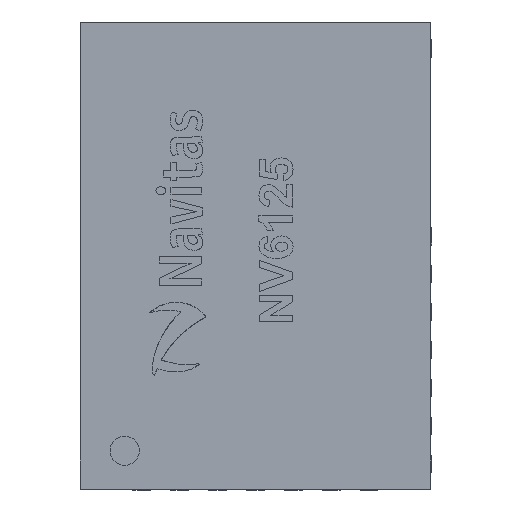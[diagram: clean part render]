
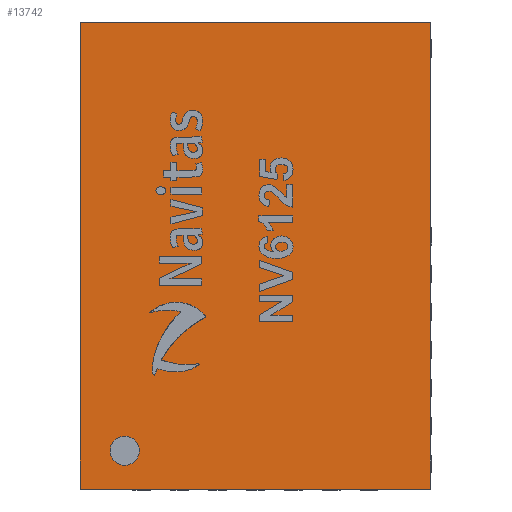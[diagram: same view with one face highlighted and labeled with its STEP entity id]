
A CAD part, top view. The second image highlights one B-rep face of the part: STEP entity #13742.
In plain terms, the highlighted planar face has unit normal (0, 0, 1).
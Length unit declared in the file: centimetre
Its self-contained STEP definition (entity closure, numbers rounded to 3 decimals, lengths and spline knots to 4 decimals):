
#1596=FACE_OUTER_BOUND($,#2408,.T.);
#2408=EDGE_LOOP($,(#9119,#9120,#9121,#9122));
#3234=LINE($,#16745,#4377);
#3235=LINE($,#16747,#4378);
#3236=LINE($,#16749,#4379);
#3237=LINE($,#16750,#4380);
#4377=VECTOR($,#14975,0.6);
#4378=VECTOR($,#14976,0.8);
#4379=VECTOR($,#14977,0.6);
#4380=VECTOR($,#14978,0.8);
#5520=VERTEX_POINT($,#16743);
#5521=VERTEX_POINT($,#16744);
#5522=VERTEX_POINT($,#16746);
#5523=VERTEX_POINT($,#16748);
#6960=EDGE_CURVE($,#5520,#5521,#3234,.T.);
#6961=EDGE_CURVE($,#5521,#5522,#3235,.T.);
#6962=EDGE_CURVE($,#5522,#5523,#3236,.T.);
#6963=EDGE_CURVE($,#5523,#5520,#3237,.T.);
#9119=ORIENTED_EDGE($,*,*,#6960,.T.);
#9120=ORIENTED_EDGE($,*,*,#6961,.T.);
#9121=ORIENTED_EDGE($,*,*,#6962,.T.);
#9122=ORIENTED_EDGE($,*,*,#6963,.T.);
#13434=PLANE($,#14655);
#13742=ADVANCED_FACE($,(#1596),#13434,.F.);
#14655=AXIS2_PLACEMENT_3D($,#16742,#14973,#14974);
#14973=DIRECTION('center_axis',(0.,0.,-1.));
#14974=DIRECTION('ref_axis',(0.,-1.,0.));
#14975=DIRECTION($,(1.,0.,0.));
#14976=DIRECTION($,(0.,1.,0.));
#14977=DIRECTION($,(-1.,0.,0.));
#14978=DIRECTION($,(0.,-1.,0.));
#16742=CARTESIAN_POINT('Origin',(-0.306,0.4051,0.095));
#16743=CARTESIAN_POINT('',(-0.606,0.0051,0.095));
#16744=CARTESIAN_POINT('',(-0.006,0.0051,0.095));
#16745=CARTESIAN_POINT($,(-0.306,0.0051,0.095));
#16746=CARTESIAN_POINT('',(-0.006,0.8051,0.095));
#16747=CARTESIAN_POINT($,(-0.006,0.4051,0.095));
#16748=CARTESIAN_POINT('',(-0.606,0.8051,0.095));
#16749=CARTESIAN_POINT($,(-0.306,0.8051,0.095));
#16750=CARTESIAN_POINT($,(-0.606,0.4051,0.095));
